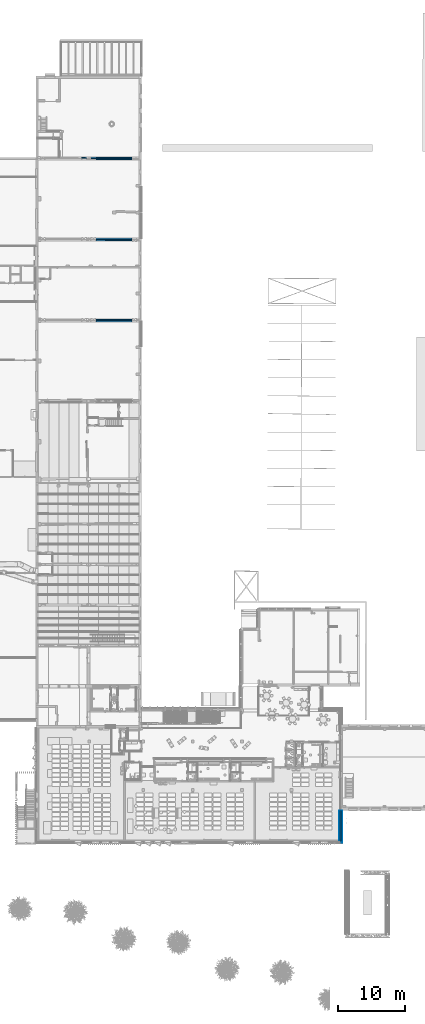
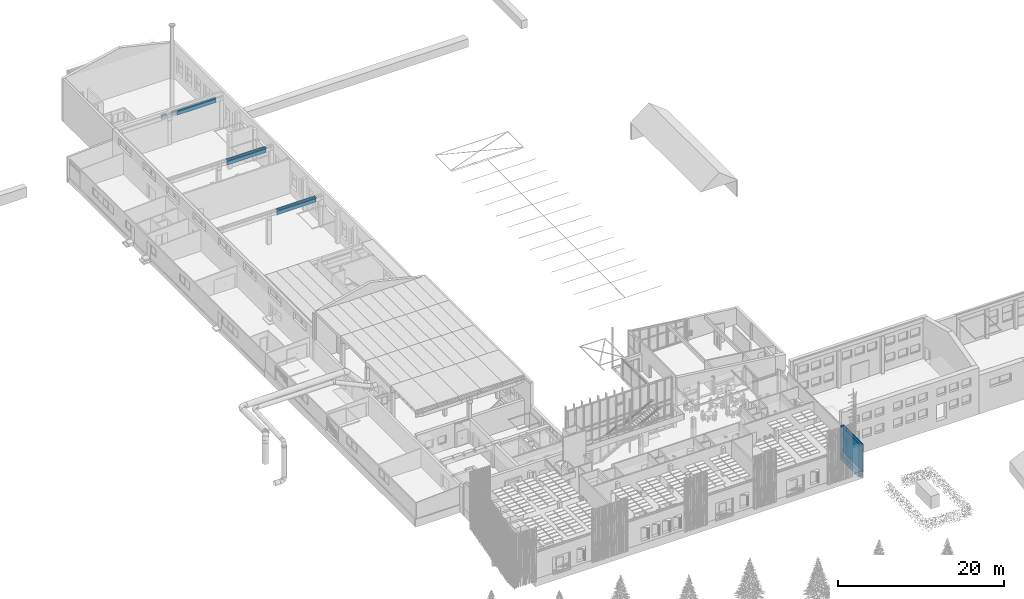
# One storey, part 207 of 301: 16 building element parts, 9 elements without a shape of their own.
"""IFC2X3 building model written with IfcOpenShell, lengths in millimetres."""

from ifc_helpers import new_model, entity, si_unit, converted_unit, derived_unit, money_unit, direction, frame, origin_with_axes, place, context, subcontext, project, spatial, faceted_brep, material, type_object, element, aggregate, save


model = new_model("IFC2X3")

# Units and contexts
model_context = context("Model", 3, precision=0.01, world=origin_with_axes(), true_north=direction((0.0, 1.0)))
body_context = subcontext(model_context, "Body", "Model", "MODEL_VIEW")
ifc_project = project(units=[si_unit("LENGTHUNIT", "METRE", prefix="MILLI"), si_unit("AREAUNIT", "SQUARE_METRE"), si_unit("VOLUMEUNIT", "CUBIC_METRE"), converted_unit("PLANEANGLEUNIT", "DEGREE", entity("IfcPlaneAngleMeasure", 0.0174532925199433), si_unit("PLANEANGLEUNIT", "RADIAN"), dimensions=[0, 0, 0, 0, 0, 0, 0]), money_unit("EUR"), converted_unit("TIMEUNIT", "Year", entity("IfcTimeMeasure", 31557600.0), si_unit("TIMEUNIT", "SECOND"), dimensions=[0, 0, 1, 0, 0, 0, 0]), si_unit("MASSUNIT", "GRAM", prefix="KILO"), si_unit("THERMODYNAMICTEMPERATUREUNIT", "DEGREE_CELSIUS"), si_unit("LUMINOUSINTENSITYUNIT", "LUMEN"), si_unit("ENERGYUNIT", "JOULE", prefix="MEGA"), derived_unit("THERMALCONDUCTANCEUNIT", [(si_unit("POWERUNIT", "WATT"), 1), (si_unit("LENGTHUNIT", "METRE"), -1), (si_unit("THERMODYNAMICTEMPERATUREUNIT", "KELVIN"), -1)]), derived_unit("SPECIFICHEATCAPACITYUNIT", [(si_unit("ENERGYUNIT", "JOULE"), 1), (si_unit("MASSUNIT", "GRAM", prefix="KILO"), -1), (si_unit("THERMODYNAMICTEMPERATUREUNIT", "KELVIN"), -1)]), derived_unit("MASSDENSITYUNIT", [(si_unit("MASSUNIT", "GRAM", prefix="KILO"), 1), (si_unit("VOLUMEUNIT", "CUBIC_METRE"), -1)])], contexts=[model_context])

# Site, building, storey
site_placement = place(None, frame((0.0, 0.0, 8650.0), z_axis=(0.0, 0.0, 1.0), x_axis=(1.0, 0.0, 0.0)))
site = spatial("IfcSite", under=ifc_project, at=site_placement, Name="43301:001:0844", CompositionType="ELEMENT")
building_placement = place(site_placement, origin_with_axes())
building = spatial("IfcBuilding", under=site, at=building_placement, Name="Kuressaare Ametikooli tuulikute mehaanikute õppekorpus", CompositionType="ELEMENT")
storey_placement = place(building_placement, origin_with_axes())
storey = spatial("IfcBuildingStorey", under=building, at=storey_placement, Name="1.korrus", CompositionType="ELEMENT", Elevation=0.0)

# Wall, building element parts
wall_type_1 = type_object("IfcWallType", Name="TUUL_vundament 440 x 1150", PredefinedType="NOTDEFINED")
wall_1_placement = place(storey_placement, frame((133174.9464416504, 8973.838490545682, 0.0), z_axis=(0.0, 0.0, 1.0), x_axis=(0.0, 1.0, 0.0)))
wall_1 = element("IfcWall", 1, at=wall_1_placement, inside=storey, type_object=wall_type_1, Name="Sokkel")
ifc_material_1 = material(Name="Soojustus - Vahtpolüstüreen")
building_element_part_1_placement = place(wall_1_placement, origin_with_axes())
building_element_part_1 = element("IfcBuildingElementPart", 2, at=building_element_part_1_placement, material=ifc_material_1, Name="Soojustus - Vahtpolüstüreen", context=body_context, shape_type="Brep", body=[
    faceted_brep([(-4.470349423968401e-06, -4.470365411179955e-06, 300.0000000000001), (-4.470349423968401e-06, -200.0000104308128, 300.0000000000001), (4543.819226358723, -200.0000104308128, 300.0000000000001), (4543.819226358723, -4.470365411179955e-06, 300.0000000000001), (-4.470349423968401e-06, -4.470365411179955e-06, 0.0), (-4.470349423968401e-06, -4.470365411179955e-06, -850.0000000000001), (-4.470349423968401e-06, -200.0000104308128, -850.0000000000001), (4543.819226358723, -200.0000104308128, -850.0000000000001), (4543.819226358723, -4.470365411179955e-06, -850.0000000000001), (4543.819226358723, -4.470365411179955e-06, 8.195646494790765e-06)], [[[0, 1, 2, 3]], [[1, 0, 4, 5, 6]], [[1, 6, 7, 2]], [[8, 9, 3, 2, 7]], [[4, 0, 3, 9]], [[5, 4, 9, 8]], [[6, 5, 8, 7]]]),
])
ifc_material_2 = material(Name="Betoon - C30/37")
building_element_part_2_placement = place(wall_1_placement, origin_with_axes())
building_element_part_2 = element("IfcBuildingElementPart", 3, at=building_element_part_2_placement, material=ifc_material_2, Name="Betoon - C30/37", context=body_context, shape_type="Brep", body=[
    faceted_brep([(150.0000000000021, 150.0000000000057, 0.0), (150.0000000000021, 0.0, 0.0), (4543.819226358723, 0.0, 0.0), (4543.819226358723, 150.0000000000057, 0.0), (150.0000000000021, 0.0, -850.0000000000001), (150.0000000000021, 150.0000000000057, -850.0000000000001), (4543.819226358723, 0.0, -850.0000000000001), (4543.819226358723, 150.0000000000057, -850.0000000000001)], [[[0, 1, 2, 3]], [[4, 1, 0, 5]], [[1, 4, 6, 2]], [[2, 6, 7, 3]], [[5, 0, 3, 7]], [[4, 5, 7, 6]]]),
])
building_element_part_3_placement = place(wall_1_placement, origin_with_axes())
building_element_part_3 = element("IfcBuildingElementPart", 4, at=building_element_part_3_placement, material=ifc_material_2, Name="Betoon - C30/37", context=body_context, shape_type="Brep", body=[
    faceted_brep([(-199.9999999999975, -199.9999999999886, 300.0000000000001), (-199.9999999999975, -289.999999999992, 279.9999926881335), (4543.819226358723, -289.999999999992, 280.0), (4543.819226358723, -199.9999999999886, 300.0000000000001), (-199.9999999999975, -199.9999999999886, -850.0000000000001), (-199.9999999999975, -289.999999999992, -850.0000000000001), (4543.819226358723, -289.999999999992, -850.0000000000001), (4543.819226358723, -199.9999999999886, -850.0000000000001)], [[[0, 1, 2, 3]], [[1, 0, 4, 5]], [[1, 5, 6, 2]], [[2, 6, 7, 3]], [[0, 3, 7, 4]], [[5, 4, 7, 6]]]),
])
aggregate(wall_1, [building_element_part_1, building_element_part_2, building_element_part_3])

wall_type_2 = type_object("IfcWallType", Name="VS1 437", PredefinedType="NOTDEFINED")
wall_2_placement = place(storey_placement, frame((133024.9464416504, 9123.838490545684, 0.0), z_axis=(0.0, 0.0, 1.0), x_axis=(0.0, 1.0, 0.0)))
wall_2 = element("IfcWall", 5, at=wall_2_placement, inside=storey, type_object=wall_type_2, Name="Sisesein")
ifc_material_3 = material(Name="Puit - CLT")
building_element_part_4_placement = place(wall_2_placement, origin_with_axes())
building_element_part_4 = element("IfcBuildingElementPart", 6, at=building_element_part_4_placement, material=ifc_material_3, Name="Puit - CLT", context=body_context, shape_type="Brep", body=[
    faceted_brep([(4393.819226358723, 0.0, 0.0), (4393.819226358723, -139.9999999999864, 0.0), (0.0, -139.9999999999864, 0.0), (0.0, 0.0, 0.0), (4393.819226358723, 0.0, 4100.0), (4393.819226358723, -139.9999999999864, 4100.0), (0.0, -139.9999999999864, 4100.0), (0.0, 0.0, 4100.0)], [[[0, 1, 2, 3]], [[0, 4, 5, 1]], [[1, 5, 6, 2]], [[3, 2, 6, 7]], [[4, 0, 3, 7]], [[5, 4, 7, 6]]]),
])
ifc_material_4 = material(Name="Soojustus - Mineraalvill jäik")
building_element_part_5_placement = place(wall_2_placement, origin_with_axes())
building_element_part_5 = element("IfcBuildingElementPart", 7, at=building_element_part_5_placement, material=ifc_material_4, Name="Soojustus - Mineraalvill jäik", context=body_context, shape_type="Brep", body=[
    faceted_brep([(4393.819226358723, -139.9999999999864, 0.0), (4393.819226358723, -344.9999999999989, 0.0), (-140.0000000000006, -344.9999999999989, 0.0), (-140.0000000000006, -139.9999999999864, 0.0), (4393.819226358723, -139.9999999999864, 4100.0), (4393.819226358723, -344.9999999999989, 4100.0), (-140.0000000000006, -344.9999999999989, 4100.0), (-140.0000000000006, -139.9999999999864, 4100.0)], [[[0, 1, 2, 3]], [[0, 4, 5, 1]], [[1, 5, 6, 2]], [[3, 2, 6, 7]], [[4, 0, 3, 7]], [[5, 4, 7, 6]]]),
])
ifc_material_5 = material(Name="Air Space - Frame")
building_element_part_6_placement = place(wall_2_placement, origin_with_axes())
building_element_part_6 = element("IfcBuildingElementPart", 8, at=building_element_part_6_placement, material=ifc_material_5, Name="Air Space - Frame", context=body_context, shape_type="Brep", body=[
    faceted_brep([(4393.819226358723, -344.9999999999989, 0.0), (4393.819226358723, -389.00000000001, 0.0), (-345.0000000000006, -389.00000000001, 0.0), (-345.0000000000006, -344.9999999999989, 0.0), (4393.819226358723, -344.9999999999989, 4100.0), (4393.819226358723, -389.00000000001, 4100.0), (-345.0000000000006, -389.00000000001, 4100.0), (-345.0000000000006, -344.9999999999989, 4100.0)], [[[0, 1, 2, 3]], [[0, 4, 5, 1]], [[1, 5, 6, 2]], [[3, 2, 6, 7]], [[4, 0, 3, 7]], [[5, 4, 7, 6]]]),
])
building_element_part_7_placement = place(wall_2_placement, origin_with_axes())
building_element_part_7 = element("IfcBuildingElementPart", 9, at=building_element_part_7_placement, material=ifc_material_5, Name="Air Space - Frame", context=body_context, shape_type="Brep", body=[
    faceted_brep([(4393.819226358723, -389.00000000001, 0.0), (4393.819226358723, -417.0000000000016, 0.0), (-388.9999999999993, -417.0000000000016, 0.0), (-388.9999999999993, -389.00000000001, 0.0), (4393.819226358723, -389.00000000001, 4100.0), (4393.819226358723, -417.0000000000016, 4100.0), (-388.9999999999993, -417.0000000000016, 4100.0), (-388.9999999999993, -389.00000000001, 4100.0)], [[[0, 1, 2, 3]], [[0, 4, 5, 1]], [[1, 5, 6, 2]], [[3, 2, 6, 7]], [[4, 0, 3, 7]], [[5, 4, 7, 6]]]),
])
ifc_material_6 = material(Name="Puit - voodrilaud")
building_element_part_8_placement = place(wall_2_placement, origin_with_axes())
building_element_part_8 = element("IfcBuildingElementPart", 10, at=building_element_part_8_placement, material=ifc_material_6, Name="Puit - voodrilaud", context=body_context, shape_type="Brep", body=[
    faceted_brep([(4393.819226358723, -417.0000000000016, 0.0), (4393.819226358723, -437.0000000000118, 0.0), (-416.9999999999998, -437.0000000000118, 0.0), (-416.9999999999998, -417.0000000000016, 0.0), (4393.819226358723, -417.0000000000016, 4100.0), (4393.819226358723, -437.0000000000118, 4100.0), (-416.9999999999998, -437.0000000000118, 4100.0), (-416.9999999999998, -417.0000000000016, 4100.0)], [[[0, 1, 2, 3]], [[0, 4, 5, 1]], [[1, 5, 6, 2]], [[3, 2, 6, 7]], [[4, 0, 3, 7]], [[5, 4, 7, 6]]]),
])
aggregate(wall_2, [building_element_part_4, building_element_part_5, building_element_part_6, building_element_part_7, building_element_part_8])

# Beam, building element part
beam_type_1 = type_object("IfcBeamType", Name="Various Structures - 5 Segments - 250 x 700 x 7497 (338+766+5404+640+350)", PredefinedType="NOTDEFINED")
beam_1_placement = place(storey_placement, frame((95731.40168846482, 98524.34147844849, 4300.0), z_axis=(0.0, 0.0, 1.0), x_axis=(-0.004564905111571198, -0.999989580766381, 0.0)))
beam_1 = element("IfcBeam", 11, at=beam_1_placement, inside=storey, type_object=beam_type_1)
ifc_material_7 = material(Name="Raudbetoon")
building_element_part_9_placement = place(beam_1_placement, origin_with_axes())
building_element_part_9 = element("IfcBuildingElementPart", 12, at=building_element_part_9_placement, material=ifc_material_7, Name="Raudbetoon", context=body_context, shape_type="Brep", body=[
    faceted_brep([(65.00695193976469, 1103.687342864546, 0.0), (65.00617967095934, 1103.984090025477, 0.0), (65.00617967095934, 6507.500702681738, 0.0), (-125.0055545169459, 6507.500702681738, 0.0), (-125.0055545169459, 1103.687342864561, 0.0), (65.00711762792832, 1103.687342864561, -74.88376994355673), (65.0063156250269, 1103.984090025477, -75.00000000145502), (65.00645157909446, 1103.984090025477, -150.0000000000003), (65.00645157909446, 6507.500702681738, -150.0000000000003), (95.00586709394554, 6507.500702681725, -157.1998597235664), (64.99999999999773, 6507.500702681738, -164.4012678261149), (64.99999999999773, 6507.500702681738, -700.0000000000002), (-64.99999999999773, 6507.500702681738, -700.0000000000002), (-64.99999999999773, 6507.500702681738, -164.4012678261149), (-125.0052826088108, 6507.500702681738, -150.0000000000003), (-125.005282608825, 1103.687342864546, -150.0000000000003), (65.00728381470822, 1103.687342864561, -150.0000000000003), (65.00711812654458, 1103.687342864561, -75.11623005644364), (-64.99999999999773, 1103.687342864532, -164.4012678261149), (-64.99999999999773, 1103.687342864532, -700.0000000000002), (64.99999999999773, 1103.687342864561, -700.0000000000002), (64.99999999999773, 1103.687342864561, -164.4012678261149), (95.00628321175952, 1103.687342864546, -157.1997598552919)], [[[0, 1, 2, 3, 4]], [[5, 6, 1, 0]], [[7, 8, 2, 1, 6]], [[2, 8, 9, 10, 11, 12, 13, 14, 3]], [[14, 15, 4, 3]], [[16, 17, 5, 0, 4, 15, 18, 19, 20, 21, 22]], [[17, 6, 5]], [[22, 9, 8, 7, 16]], [[16, 7, 6, 17]], [[10, 9, 22, 21]], [[10, 21, 20, 11]], [[11, 20, 19, 12]], [[12, 19, 18, 13]], [[13, 18, 15, 14]]]),
])
aggregate(beam_1, [building_element_part_9])

beam_2_placement = place(storey_placement, frame((95730.8310469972, 98334.3303694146, 4300.0), z_axis=(0.0, 0.0, 1.0), x_axis=(-0.004564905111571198, -0.999989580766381, 0.0)))
beam_2 = element("IfcBeam", 13, at=beam_2_placement, inside=storey, type_object=beam_type_1)
building_element_part_10_placement = place(beam_2_placement, origin_with_axes())
building_element_part_10 = element("IfcBuildingElementPart", 14, at=building_element_part_10_placement, material=ifc_material_7, Name="Raudbetoon", context=body_context, shape_type="Brep", body=[
    faceted_brep([(64.99999999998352, 1103.687342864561, -700.0000000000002), (64.99999999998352, 6507.50070268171, -700.0000000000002), (64.99999999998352, 6507.50070268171, -164.4012678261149), (64.99999999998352, 1103.687342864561, -164.4012678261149), (-65.00000000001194, 1103.687342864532, -700.0000000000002), (-65.00000000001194, 6507.500702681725, -700.0000000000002), (-65.00000000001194, 6507.500702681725, -164.4012678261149), (-125.005282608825, 6507.500702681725, -150.0000000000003), (-125.0055545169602, 6507.500702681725, 0.0), (125.0055545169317, 6507.500702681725, 0.0), (125.0052826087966, 6507.500702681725, -150.0000000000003), (125.0052826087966, 1103.687342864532, -150.0000000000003), (125.0055545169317, 1103.687342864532, 0.0), (-125.0055545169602, 1103.687342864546, 0.0), (-125.005282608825, 1103.687342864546, -150.0000000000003), (-65.00000000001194, 1103.687342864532, -164.4012678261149)], [[[0, 1, 2, 3]], [[4, 5, 1, 0]], [[2, 1, 5, 6, 7, 8, 9, 10]], [[3, 2, 10, 11]], [[4, 0, 3, 11, 12, 13, 14, 15]], [[15, 6, 5, 4]], [[14, 7, 6, 15]], [[13, 8, 7, 14]], [[12, 9, 8, 13]], [[11, 10, 9, 12]]]),
])
aggregate(beam_2, [building_element_part_10])

# Beam, building element parts
beam_type_2 = type_object("IfcBeamType", Name="Various Structures - 5 Segments - 250 x 700 x 7459 (337+766+5365+640+352)", PredefinedType="NOTDEFINED")
beam_3_placement = place(storey_placement, frame((95767.67580270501, 110534.9704800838, 4300.0), z_axis=(0.0, 0.0, 1.0), x_axis=(-0.003367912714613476, -0.9999943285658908, 0.0)))
beam_3 = element("IfcBeam", 15, at=beam_3_placement, inside=storey, type_object=beam_type_2)
building_element_part_11_placement = place(beam_3_placement, origin_with_axes())
building_element_part_11 = element("IfcBuildingElementPart", 16, at=building_element_part_11_placement, material=ifc_material_7, Name="Raudbetoon", context=body_context, shape_type="Brep", body=[
    faceted_brep([(-125.005282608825, 337.7568168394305, 0.0), (21.75254840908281, 337.7568168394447, 0.0), (21.25822036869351, 499.6399555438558, 0.0), (20.08879910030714, 882.603433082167, 0.0), (19.50408846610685, 1074.085171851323, 0.0), (19.41290315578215, 1103.687342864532, 0.0), (-125.0047820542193, 1103.687342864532, 0.0), (-125.0049071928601, 912.2047113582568, 0.0), (-125.0051574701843, 529.2394483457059, 0.0), (21.75284132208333, 337.7568168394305, -150.0000000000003), (21.7527181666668, 337.7568168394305, -86.59324633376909), (21.75267156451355, 337.7568168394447, -63.40675361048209), (-125.0051369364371, 337.7568168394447, -75.00000000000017), (-125.004991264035, 337.7568168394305, -150.0000000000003), (-65.00000000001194, 337.7568168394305, -164.4011979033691), (-65.00000000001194, 337.7568168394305, -579.8231697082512), (64.99999999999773, 337.7568168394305, -579.8231697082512), (64.99999999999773, 337.7568168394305, -164.4011979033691), (73.37903663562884, 337.7568168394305, -162.3902291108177), (20.67366554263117, 691.1216947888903, -75.00000000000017), (19.50425441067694, 1074.085172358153, -75.00000000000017), (19.50442035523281, 1074.085172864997, -150.0000000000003), (19.41317506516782, 1103.687342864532, -150.0000000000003), (-125.004616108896, 1103.687342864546, -75.00000000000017), (72.20893574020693, 1103.687342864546, -162.6709234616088), (64.99999999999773, 1103.687342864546, -164.4010680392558), (64.99999999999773, 1103.687342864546, -699.9999999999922), (-64.99999999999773, 1103.687342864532, -699.9999999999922), (-64.99999999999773, 1103.687342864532, -164.4010680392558), (-125.0044501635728, 1103.687342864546, -150.0000000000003), (-125.0048765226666, 720.7220798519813, -75.00000000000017), (21.25852184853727, 499.6399564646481, -150.0000000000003), (-125.0048559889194, 529.2394483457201, -150.0000000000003), (-125.0045854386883, 912.2047113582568, -150.0000000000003), (20.08912085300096, 882.6034340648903, -150.0000000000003)], [[[0, 1, 2, 3, 4, 5, 6, 7, 8]], [[9, 10, 11, 1, 0, 12, 13, 14, 15, 16, 17, 18]], [[1, 11, 2]], [[2, 19, 3]], [[4, 3, 20]], [[5, 4, 20, 21, 22]], [[23, 6, 5, 22, 24, 25, 26, 27, 28, 29]], [[23, 7, 6]], [[30, 8, 7]], [[12, 0, 8]], [[9, 31, 10]], [[19, 2, 11, 10, 31]], [[32, 13, 12]], [[32, 33, 29, 28, 14, 13]], [[15, 14, 28, 27]], [[26, 16, 15, 27]], [[17, 16, 26, 25]], [[25, 24, 18, 17]], [[24, 22, 21, 34, 31, 9, 18]], [[20, 3, 19, 34]], [[20, 34, 21]], [[29, 33, 23]], [[30, 7, 23, 33]], [[12, 8, 30, 32]], [[34, 19, 31]], [[33, 32, 30]]]),
])
building_element_part_12_placement = place(beam_3_placement, origin_with_axes())
building_element_part_12 = element("IfcBuildingElementPart", 17, at=building_element_part_12_placement, material=ifc_material_7, Name="Raudbetoon", context=body_context, shape_type="Brep", body=[
    faceted_brep([(64.99999999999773, 5824.542432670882, -700.0000000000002), (64.99999999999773, 5824.542432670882, -164.4012678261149), (64.99999999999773, 1103.687342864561, -164.4012678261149), (64.99999999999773, 1103.687342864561, -700.0000000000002), (63.03379897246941, 6468.298523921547, -164.4011476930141), (63.03379897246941, 6468.298523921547, -700.0000000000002), (63.03320674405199, 6468.492426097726, -699.9787792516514), (63.03320674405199, 6468.492426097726, -164.4011477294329), (72.2093519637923, 1103.687342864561, -162.6710233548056), (-64.99999999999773, 1103.687342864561, -164.4012678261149), (-64.99999999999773, 1103.687342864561, -700.0000000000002), (19.41317506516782, 1103.687342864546, -150.0000000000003), (19.41290315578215, 1103.687342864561, 0.0), (-125.0055545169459, 1103.687342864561, 0.0), (-125.0052826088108, 1103.687342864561, -150.0000000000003), (-64.99999999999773, 6468.492426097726, -700.0000000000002), (64.99999999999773, 6468.492426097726, -700.0000000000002), (64.99999999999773, 6468.304529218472, -700.0000000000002), (3.028144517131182, 6468.492426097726, -150.0000000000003), (3.029296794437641, 6468.115254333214, -150.0000000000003), (64.99999999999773, 6468.492426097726, -699.9794366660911), (-64.99999999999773, 6468.492426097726, -164.4012678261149), (-125.0052826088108, 6468.492426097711, -150.0000000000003), (-125.0055545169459, 6468.492426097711, 0.0), (3.027838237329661, 6468.492426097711, 0.0), (3.02799102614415, 6468.492426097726, -74.82309466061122), (3.027991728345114, 6468.492426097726, -75.17690533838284), (3.029143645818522, 6468.115253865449, -75.00000000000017), (3.028990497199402, 6468.115253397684, 0.0)], [[[0, 1, 2, 3]], [[4, 1, 0, 5, 6, 7]], [[2, 1, 8]], [[9, 10, 3, 2, 8, 11, 12, 13, 14]], [[5, 0, 3, 10, 15, 16, 17]], [[18, 19, 11, 8, 1, 4, 7]], [[6, 5, 17, 20]], [[7, 6, 20, 16, 15, 21, 22, 23, 24, 25, 26, 18]], [[21, 15, 10, 9]], [[27, 28, 12, 11, 19]], [[24, 23, 13, 12, 28]], [[23, 22, 14, 13]], [[22, 21, 9, 14]], [[20, 17, 16]], [[18, 26, 27, 19]], [[25, 24, 28, 27]], [[25, 27, 26]]]),
])
aggregate(beam_3, [building_element_part_11, building_element_part_12])

# Beam, building element part
beam_type_3 = type_object("IfcBeamType", Name="Various Structures - 5 Segments - 250 x 700 x 7549 (262+767+5479+621+420)", PredefinedType="NOTDEFINED")
beam_4_placement = place(storey_placement, frame((95768.13751728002, 110534.9689250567, 4300.0), z_axis=(0.0, 0.0, 1.0), x_axis=(0.003367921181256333, 0.9999943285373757, 0.0)))
beam_4 = element("IfcBeam", 18, at=beam_4_placement, inside=storey, type_object=beam_type_3)
building_element_part_13_placement = place(beam_4_placement, origin_with_axes())
building_element_part_13 = element("IfcBuildingElementPart", 19, at=building_element_part_13_placement, material=ifc_material_7, Name="Raudbetoon", context=body_context, shape_type="Brep", body=[
    faceted_brep([(-25.69472426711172, 867.2197634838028, -150.0000000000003), (-26.23925973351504, 1028.909484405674, -86.76810370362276), (-26.23939964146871, 1028.909484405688, -150.0000000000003), (-26.2392092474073, 1028.909484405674, -63.23189622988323), (-25.04852341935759, 675.4379300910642, -75.00000000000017), (-25.69440251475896, 867.2197645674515, 0.0), (64.99999999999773, 1028.909478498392, -700.0000219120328), (-64.99999999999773, 1028.909477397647, -700.0000219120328), (-64.99999999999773, 1028.909484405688, -164.4010680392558), (-75.62206499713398, 1028.909484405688, -161.8517724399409), (-26.23906933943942, 1028.909484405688, 0.0), (125.0047820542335, 1028.909484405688, 0.0), (125.0046161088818, 1028.909484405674, -75.00000000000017), (125.0044501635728, 1028.909484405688, -150.0000000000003), (64.99999999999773, 1028.909484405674, -164.4010680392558), (-74.33010668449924, 261.7777961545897, -162.1619722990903), (-23.6549347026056, 261.7777961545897, -150.0000000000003), (-23.75658914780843, 291.8742617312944, -150.0000000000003), (-24.40263418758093, 483.6560956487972, -150.0000000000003), (-24.4023327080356, 483.6560966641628, 0.0), (-64.99999999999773, 300.6595814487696, -579.9999464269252), (64.99999999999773, 300.659582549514, -579.9999464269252), (-65.00000000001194, 261.7777961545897, -164.4011979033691), (-64.99999999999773, 300.661822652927, -585.9146389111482), (-65.00000000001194, 300.2217554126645, -585.8456991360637), (-65.00000000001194, 300.2217554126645, -580.0000000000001), (-65.00000000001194, 262.906567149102, -580.0000000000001), (-65.00000000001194, 261.7777961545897, -579.8231697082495), (-23.75629780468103, 291.8742627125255, 0.0), (-23.65466279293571, 261.7777961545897, 0.0), (125.0052826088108, 261.7777961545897, 0.0), (125.00515747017, 453.5607182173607, 0.0), (125.0049071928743, 837.1265623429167, 0.0), (125.0045854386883, 837.1265623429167, -150.0000000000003), (64.99999999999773, 261.7777961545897, -164.4011979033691), (125.0048559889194, 453.5607182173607, -150.0000000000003), (125.004991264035, 261.7777961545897, -150.0000000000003), (64.99999999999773, 261.7777961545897, -579.8231697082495), (64.99999999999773, 262.9065671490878, -580.0000000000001), (125.0051369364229, 261.7777961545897, -75.00000000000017), (-23.75644347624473, 291.8742622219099, -75.00000000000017), (64.99999999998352, 300.661823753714, -585.9146390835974), (125.0048765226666, 645.3436402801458, -75.00000000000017)], [[[0, 1, 2]], [[3, 1, 0, 4, 5]], [[6, 7, 8, 9, 2, 1, 3, 10, 11, 12, 13, 14]], [[0, 2, 9, 15, 16, 17, 18]], [[18, 4, 0]], [[19, 5, 4]], [[5, 10, 3]], [[20, 7, 6, 21]], [[22, 8, 7, 20, 23, 24, 25, 26, 27]], [[15, 9, 8, 22]], [[11, 10, 5, 19, 28, 29, 30, 31, 32]], [[32, 12, 11]], [[12, 33, 13]], [[34, 14, 13, 33, 35, 36]], [[21, 6, 14, 34, 37, 38]], [[16, 15, 22, 27, 37, 34, 36, 39, 30, 29]], [[28, 40, 17, 16, 29]], [[40, 18, 17]], [[19, 4, 18, 40]], [[41, 23, 20, 21]], [[41, 24, 23]], [[21, 25, 24, 41]], [[38, 26, 25, 21]], [[37, 27, 26, 38]], [[40, 28, 19]], [[31, 30, 39]], [[42, 32, 31]], [[42, 33, 12, 32]], [[42, 35, 33]], [[39, 36, 35]], [[39, 35, 42, 31]]]),
])
aggregate(beam_4, [building_element_part_13])

beam_type_4 = type_object("IfcBeamType", Name="Various Structures - 5 Segments - 250 x 700 x 7489 (338+766+5394+640+352)", PredefinedType="NOTDEFINED")
beam_5_placement = place(storey_placement, frame((95737.96269673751, 110387.1904888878, 4300.0), z_axis=(0.0, 0.0, 1.0), x_axis=(-0.0003136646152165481, -0.9999999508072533, 0.0)))
beam_5 = element("IfcBeam", 20, at=beam_5_placement, inside=storey, type_object=beam_type_4)
building_element_part_14_placement = place(beam_5_placement, origin_with_axes())
building_element_part_14 = element("IfcBuildingElementPart", 21, at=building_element_part_14_placement, material=ifc_material_7, Name="Raudbetoon", context=body_context, shape_type="Brep", body=[
    faceted_brep([(64.99999999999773, 1103.687342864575, -700.0000000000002), (-19.5133735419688, 1103.687342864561, -700.0000000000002), (-19.42394510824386, 1132.96720700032, -700.002498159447), (-64.99999999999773, 1133.106408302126, -700.002498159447), (-64.99999999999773, 6497.742584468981, -700.0000000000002), (64.99999999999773, 6497.742584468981, -700.0000000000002), (-64.99999999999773, 1103.687342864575, -695.3865792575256), (-19.5133735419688, 1103.687342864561, -695.4083774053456), (64.99999999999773, 1103.687342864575, -164.4012678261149), (125.0052826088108, 1103.687342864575, -150.0000000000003), (125.0055545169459, 1103.687342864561, 0.0), (-125.0055545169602, 1103.687342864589, 0.0), (-125.005282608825, 1103.687342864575, -150.0000000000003), (-64.99999999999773, 1103.687342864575, -164.4012678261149), (-64.99999999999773, 6497.742584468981, -164.4012678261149), (-125.0055545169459, 6497.742584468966, 0.0), (125.0055545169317, 6497.742584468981, 0.0), (125.0052826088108, 6497.742584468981, -150.0000000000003), (64.99999999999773, 6497.742584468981, -164.4012678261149), (-125.0052826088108, 6497.742584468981, -150.0000000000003)], [[[0, 1, 2, 3, 4, 5]], [[6, 7, 1, 0, 8, 9, 10, 11, 12, 13]], [[7, 2, 1]], [[7, 6, 3, 2]], [[4, 3, 6, 13, 14]], [[15, 16, 17, 18, 5, 4, 14, 19]], [[5, 18, 8, 0]], [[18, 17, 9, 8]], [[17, 16, 10, 9]], [[16, 15, 11, 10]], [[15, 19, 12, 11]], [[19, 14, 13, 12]]]),
])
aggregate(beam_5, [building_element_part_14])

beam_type_5 = type_object("IfcBeamType", Name="Various Structures - 5 Segments - 250 x 700 x 7496 (338+766+5404+640+349)", PredefinedType="NOTDEFINED")
beam_6_placement = place(storey_placement, frame((95731.40168846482, 86476.84788949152, 4300.0), z_axis=(0.0, 0.0, 1.0), x_axis=(0.001815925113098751, -0.9999983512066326, 0.0)))
beam_6 = element("IfcBeam", 22, at=beam_6_placement, inside=storey, type_object=beam_type_5)
building_element_part_15_placement = place(beam_6_placement, origin_with_axes())
building_element_part_15 = element("IfcBuildingElementPart", 23, at=building_element_part_15_placement, material=ifc_material_7, Name="Raudbetoon", context=body_context, shape_type="Brep", body=[
    faceted_brep([(-125.0055545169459, 1103.687342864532, 0.0), (54.73938169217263, 1103.687342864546, 0.0), (71.142923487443, 6507.001204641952, 0.0), (71.14518035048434, 6507.591200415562, 0.0), (-125.0055545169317, 6507.591200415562, 0.0), (89.87254905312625, 1103.687342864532, -158.4318560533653), (54.7396536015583, 1103.687342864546, -150.0000000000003), (-125.0052826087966, 1103.687342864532, -150.0000000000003), (-64.99999999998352, 1103.687342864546, -164.4012678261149), (-64.99999999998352, 1103.687342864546, -700.0000000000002), (64.99999999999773, 1103.687342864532, -700.0000000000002), (64.99999999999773, 1103.687342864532, -164.4012678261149), (71.14319539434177, 6507.001203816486, -150.0000000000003), (71.14305944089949, 6507.001204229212, -75.00000000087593), (71.14533293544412, 6507.591200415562, -74.72327303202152), (71.14533403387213, 6507.591200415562, -75.2767269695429), (71.14548661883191, 6507.591200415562, -150.0000000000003), (98.07544662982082, 6507.591200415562, -156.4631606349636), (65.00000000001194, 6507.591200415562, -164.4012678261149), (65.00000000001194, 6507.591200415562, -700.0000000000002), (-64.99999999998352, 6507.591200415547, -700.0000000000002), (-64.99999999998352, 6507.591200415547, -164.4012678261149), (-125.0052826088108, 6507.591200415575, -150.0000000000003)], [[[0, 1, 2, 3, 4]], [[5, 6, 1, 0, 7, 8, 9, 10, 11]], [[12, 13, 2, 1, 6]], [[3, 2, 13, 14]], [[3, 14, 15, 16, 17, 18, 19, 20, 21, 22, 4]], [[22, 7, 0, 4]], [[16, 12, 6, 5, 17]], [[21, 8, 7, 22]], [[20, 9, 8, 21]], [[19, 10, 9, 20]], [[18, 11, 10, 19]], [[17, 5, 11, 18]], [[15, 13, 12, 16]], [[14, 13, 15]]]),
])
aggregate(beam_6, [building_element_part_15])

beam_7_placement = place(storey_placement, frame((95730.8310469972, 86300.45436199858, 4300.0), z_axis=(0.0, 0.0, 1.0), x_axis=(-0.001219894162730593, -0.9999992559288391, 0.0)))
beam_7 = element("IfcBeam", 24, at=beam_7_placement, inside=storey, type_object=beam_type_1)
building_element_part_16_placement = place(beam_7_placement, origin_with_axes())
building_element_part_16 = element("IfcBuildingElementPart", 25, at=building_element_part_16_placement, material=ifc_material_7, Name="Raudbetoon", context=body_context, shape_type="Brep", body=[
    faceted_brep([(65.00000000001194, 1103.687342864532, -700.0000000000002), (65.00000000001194, 6507.542656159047, -700.0000000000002), (65.00000000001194, 6507.542656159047, -164.4012678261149), (65.00000000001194, 1103.687342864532, -164.4012678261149), (-64.99999999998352, 1103.687342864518, -700.0000000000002), (-64.99999999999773, 6507.54265615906, -700.0000000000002), (-64.99999999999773, 6507.54265615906, -164.4012678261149), (-125.0052826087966, 6507.54265615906, -150.0000000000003), (-125.0055545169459, 6507.542656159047, 0.0), (125.0055545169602, 6507.542656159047, 0.0), (125.005282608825, 6507.542656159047, -150.0000000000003), (125.005282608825, 1103.687342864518, -150.0000000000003), (125.0055545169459, 1103.687342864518, 0.0), (-125.0055545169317, 1103.687342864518, 0.0), (-125.0052826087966, 1103.687342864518, -150.0000000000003), (-64.99999999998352, 1103.687342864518, -164.4012678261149)], [[[0, 1, 2, 3]], [[4, 5, 1, 0]], [[2, 1, 5, 6, 7, 8, 9, 10]], [[3, 2, 10, 11]], [[4, 0, 3, 11, 12, 13, 14, 15]], [[15, 6, 5, 4]], [[14, 7, 6, 15]], [[13, 8, 7, 14]], [[12, 9, 8, 13]], [[11, 10, 9, 12]]]),
])
aggregate(beam_7, [building_element_part_16])

save(model, "model.ifc")
